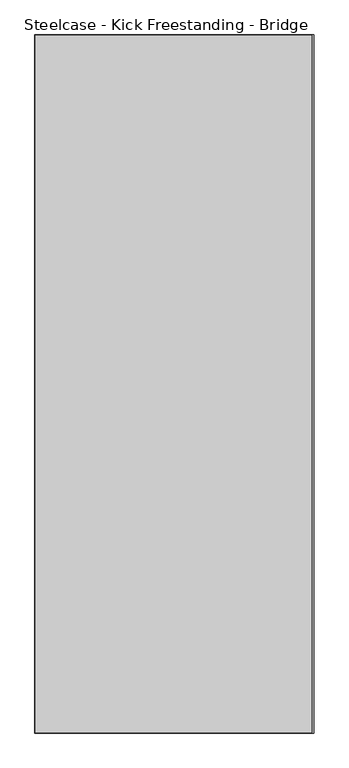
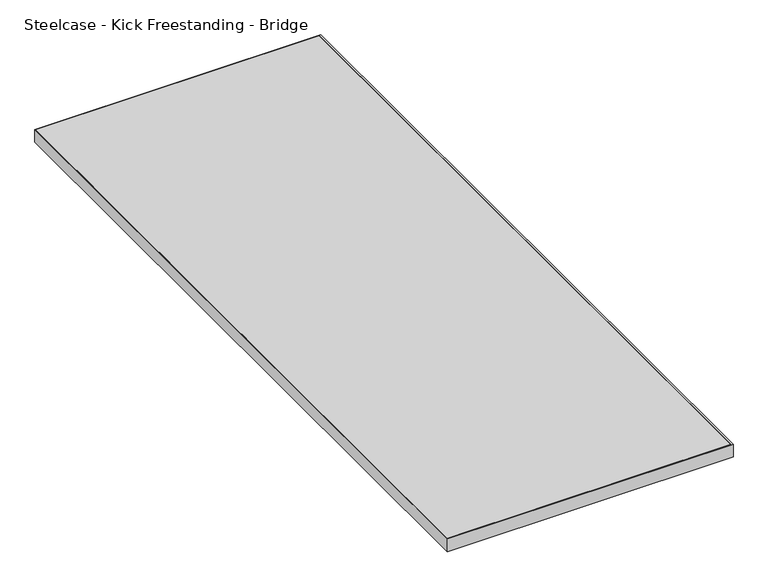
"""IFC4 building model written with IfcOpenShell, lengths in millimetres: furniture geometry, Steelcase - Kick Freestanding - Bridge : 24D x 60W."""

from ifc_helpers import new_model, si_unit, frame, origin, place, context, project, spatial, polyline, outline, extrude, source, transform, mapped, element, save


def steelcase_kick_freestanding_bridge_29e6e62d(model_context):
    return source(origin(), model_context, "Body", "SweptSolid", [
        extrude(outline(polyline([(2769.2176592, -548.0845152), (2769.2176592, -2069.5445152), (2164.8500425, -2069.5445152), (2164.8500425, -548.0845152), (2769.2176592, -548.0845152)])), frame((0.0, 0.0, 682.244), z_axis=(0.0, 0.0, 1.0), x_axis=(1.0, 0.0, 0.0)), (0.0, 0.0, 1.0), 28.956),
        extrude(outline(polyline([(2773.4594425, -546.8145152), (2773.4594425, -2070.8145152), (2163.8594425, -2070.8145152), (2163.8594425, -546.8145152), (2773.4594425, -546.8145152)]), holes=[polyline([(2769.2176592, -548.0845152), (2164.8500425, -548.0845152), (2164.8500425, -2069.5445152), (2769.2176592, -2069.5445152), (2769.2176592, -548.0845152)])]), frame((0.0, 0.0, 682.244), z_axis=(0.0, 0.0, 1.0), x_axis=(1.0, 0.0, 0.0)), (0.0, 0.0, 1.0), 28.956),
    ])


if __name__ == "__main__":
    model = new_model("IFC4")
    model_context = context("Model", 3, world=origin())
    ifc_project = project(units=[si_unit("LENGTHUNIT", "METRE", prefix="MILLI")], contexts=[model_context])
    site = spatial("IfcSite", under=ifc_project)
    building = spatial("IfcBuilding", under=site)
    placement = place(None, origin())
    steelcase_kick_freestanding_bridge_shape = steelcase_kick_freestanding_bridge_29e6e62d(model_context)
    element("IfcFurniture", 1, ObjectType="Steelcase - Kick Freestanding - Bridge : 24D x 60W", at=placement, inside=building, context=model_context, shape_type="MappedRepresentation", body=[
        mapped(steelcase_kick_freestanding_bridge_shape, transform((0.0, 0.0, 0.0), x_axis=(1.0, 0.0, 0.0), y_axis=(0.0, 1.0, 0.0), z_axis=(0.0, 0.0, 1.0))),
    ])
    save(model, "model.ifc")
